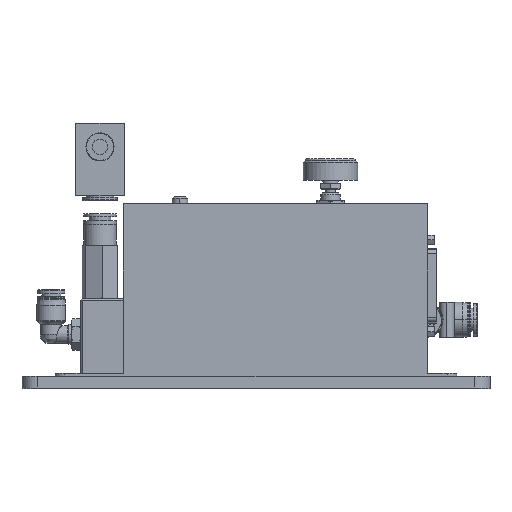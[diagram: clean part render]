
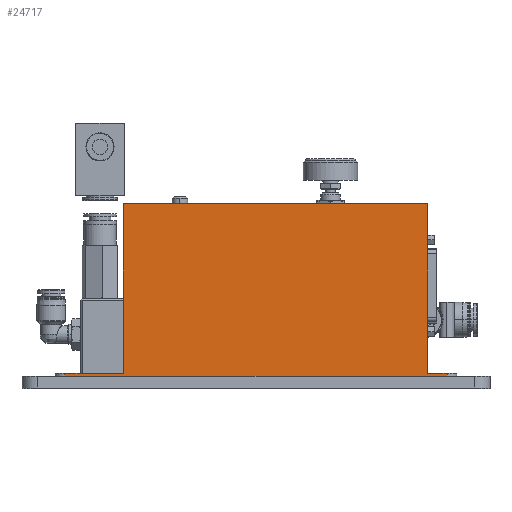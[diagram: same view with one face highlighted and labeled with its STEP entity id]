
A CAD part, top view. The second image highlights one B-rep face of the part: STEP entity #24717.
In plain terms, the highlighted planar face has unit normal (0, 0, 1).
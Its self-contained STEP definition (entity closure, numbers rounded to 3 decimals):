
#2070 = CARTESIAN_POINT ( 'NONE',  ( 52., 254.466, 148.7 ) ) ;
#2918 = ORIENTED_EDGE ( 'NONE', *, *, #47293, .F. ) ;
#5953 = LINE ( 'NONE', #63539, #31170 ) ;
#6772 = VERTEX_POINT ( 'NONE', #62333 ) ;
#6957 = CARTESIAN_POINT ( 'NONE',  ( 52., 94.5, 148.7 ) ) ;
#7163 = DIRECTION ( 'NONE',  ( -1., 0., 0. ) ) ;
#9690 = ORIENTED_EDGE ( 'NONE', *, *, #54924, .F. ) ;
#10422 = DIRECTION ( 'NONE',  ( 0., -1., 0. ) ) ;
#11800 = LINE ( 'NONE', #13746, #50459 ) ;
#11873 = VERTEX_POINT ( 'NONE', #26057 ) ;
#11908 = LINE ( 'NONE', #57858, #23683 ) ;
#13499 = VECTOR ( 'NONE', #30543, 1000. ) ;
#13746 = CARTESIAN_POINT ( 'NONE',  ( 52., 94.5, 148.7 ) ) ;
#16074 = LINE ( 'NONE', #35788, #41381 ) ;
#16100 = DIRECTION ( 'NONE',  ( 0., -1., 0. ) ) ;
#17055 = VECTOR ( 'NONE', #32880, 1000. ) ;
#17546 = VERTEX_POINT ( 'NONE', #44912 ) ;
#18073 = FACE_OUTER_BOUND ( 'NONE', #52437, .T. ) ;
#18644 = CARTESIAN_POINT ( 'NONE',  ( 208., 94.5, 148.7 ) ) ;
#19441 = DIRECTION ( 'NONE',  ( 0., -1., 0. ) ) ;
#22004 = VERTEX_POINT ( 'NONE', #38119 ) ;
#22040 = LINE ( 'NONE', #46367, #33903 ) ;
#23683 = VECTOR ( 'NONE', #32799, 1000. ) ;
#24717 = ADVANCED_FACE ( 'NONE', ( #18073 ), #26963, .F. ) ;
#26057 = CARTESIAN_POINT ( 'NONE',  ( 218., 6., 148.7 ) ) ;
#26963 = PLANE ( 'NONE',  #57614 ) ;
#27648 = VERTEX_POINT ( 'NONE', #46693 ) ;
#30543 = DIRECTION ( 'NONE',  ( 1., 0., 0. ) ) ;
#31170 = VECTOR ( 'NONE', #33418, 1000. ) ;
#32647 = ORIENTED_EDGE ( 'NONE', *, *, #50418, .F. ) ;
#32799 = DIRECTION ( 'NONE',  ( -1., 0., 0. ) ) ;
#32880 = DIRECTION ( 'NONE',  ( 1., 0., 0. ) ) ;
#33418 = DIRECTION ( 'NONE',  ( 0., 1., 0. ) ) ;
#33903 = VECTOR ( 'NONE', #16100, 1000. ) ;
#35788 = CARTESIAN_POINT ( 'NONE',  ( 52., 254.466, 148.7 ) ) ;
#36796 = VECTOR ( 'NONE', #19441, 1000. ) ;
#37372 = DIRECTION ( 'NONE',  ( 0., 0., -1. ) ) ;
#38119 = CARTESIAN_POINT ( 'NONE',  ( 208., 7.5, 148.7 ) ) ;
#39320 = ORIENTED_EDGE ( 'NONE', *, *, #47678, .T. ) ;
#41029 = CARTESIAN_POINT ( 'NONE',  ( 218., 7.5, 148.7 ) ) ;
#41381 = VECTOR ( 'NONE', #10422, 1000. ) ;
#42023 = VERTEX_POINT ( 'NONE', #18644 ) ;
#43928 = LINE ( 'NONE', #63019, #17055 ) ;
#44912 = CARTESIAN_POINT ( 'NONE',  ( 22., 7.5, 148.7 ) ) ;
#46367 = CARTESIAN_POINT ( 'NONE',  ( 218., 7.5, 148.7 ) ) ;
#46527 = EDGE_CURVE ( 'NONE', #56542, #27648, #16074, .T. ) ;
#46693 = CARTESIAN_POINT ( 'NONE',  ( 52., 7.5, 148.7 ) ) ;
#47149 = ORIENTED_EDGE ( 'NONE', *, *, #62257, .F. ) ;
#47293 = EDGE_CURVE ( 'NONE', #17546, #27648, #52175, .T. ) ;
#47678 = EDGE_CURVE ( 'NONE', #42023, #56542, #11800, .T. ) ;
#50190 = LINE ( 'NONE', #54681, #36796 ) ;
#50418 = EDGE_CURVE ( 'NONE', #51192, #11873, #22040, .T. ) ;
#50459 = VECTOR ( 'NONE', #64643, 1000. ) ;
#51192 = VERTEX_POINT ( 'NONE', #41029 ) ;
#52175 = LINE ( 'NONE', #60735, #13499 ) ;
#52437 = EDGE_LOOP ( 'NONE', ( #54637, #47149, #39320, #63357, #2918, #9690, #60694, #32647 ) ) ;
#54637 = ORIENTED_EDGE ( 'NONE', *, *, #64374, .F. ) ;
#54681 = CARTESIAN_POINT ( 'NONE',  ( 208., 254.466, 148.7 ) ) ;
#54924 = EDGE_CURVE ( 'NONE', #6772, #17546, #5953, .T. ) ;
#56097 = EDGE_CURVE ( 'NONE', #11873, #6772, #11908, .T. ) ;
#56542 = VERTEX_POINT ( 'NONE', #6957 ) ;
#57614 = AXIS2_PLACEMENT_3D ( 'NONE', #2070, #37372, #7163 ) ;
#57858 = CARTESIAN_POINT ( 'NONE',  ( 0., 6., 148.7 ) ) ;
#60694 = ORIENTED_EDGE ( 'NONE', *, *, #56097, .F. ) ;
#60735 = CARTESIAN_POINT ( 'NONE',  ( 22., 7.5, 148.7 ) ) ;
#62257 = EDGE_CURVE ( 'NONE', #42023, #22004, #50190, .T. ) ;
#62333 = CARTESIAN_POINT ( 'NONE',  ( 22., 6., 148.7 ) ) ;
#63019 = CARTESIAN_POINT ( 'NONE',  ( 22., 7.5, 148.7 ) ) ;
#63357 = ORIENTED_EDGE ( 'NONE', *, *, #46527, .T. ) ;
#63539 = CARTESIAN_POINT ( 'NONE',  ( 22., 7.5, 148.7 ) ) ;
#64374 = EDGE_CURVE ( 'NONE', #22004, #51192, #43928, .T. ) ;
#64643 = DIRECTION ( 'NONE',  ( -1., 0., 0. ) ) ;
